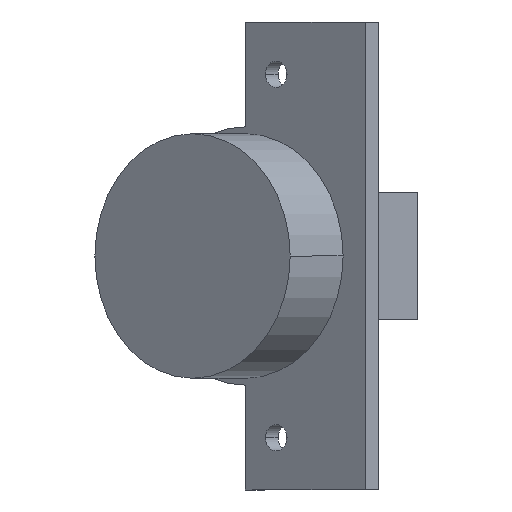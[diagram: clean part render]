
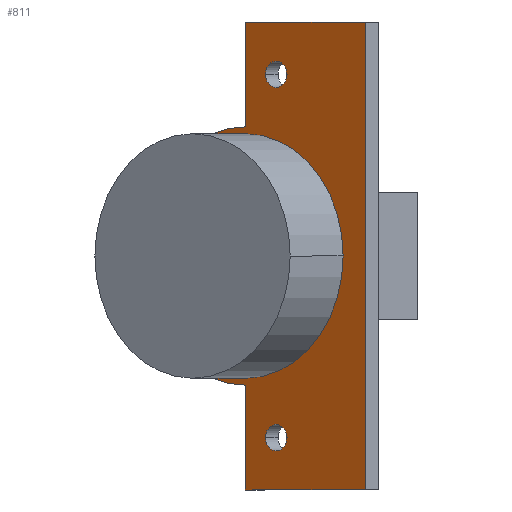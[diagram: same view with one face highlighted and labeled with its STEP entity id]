
A CAD part, front view. The second image highlights one B-rep face of the part: STEP entity #811.
In plain terms, the highlighted planar face has unit normal (-0.602, -0.799, 0).
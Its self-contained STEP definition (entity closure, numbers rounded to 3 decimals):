
#19 = VERTEX_POINT ( 'NONE', #133 ) ;
#20 = VERTEX_POINT ( 'NONE', #134 ) ;
#22 = VERTEX_POINT ( 'NONE', #136 ) ;
#25 = VERTEX_POINT ( 'NONE', #139 ) ;
#30 = VERTEX_POINT ( 'NONE', #86 ) ;
#31 = VERTEX_POINT ( 'NONE', #90 ) ;
#36 = VERTEX_POINT ( 'NONE', #93 ) ;
#38 = VERTEX_POINT ( 'NONE', #82 ) ;
#40 = VERTEX_POINT ( 'NONE', #84 ) ;
#46 = VERTEX_POINT ( 'NONE', #74 ) ;
#61 = VERTEX_POINT ( 'NONE', #1086 ) ;
#69 = VERTEX_POINT ( 'NONE', #1094 ) ;
#74 = CARTESIAN_POINT ( 'NONE',  ( 19., 0., 33.5 ) ) ;
#82 = CARTESIAN_POINT ( 'NONE',  ( 36.171, -12.939, 33.5 ) ) ;
#84 = CARTESIAN_POINT ( 'NONE',  ( 21.875, -2.167, 26. ) ) ;
#86 = CARTESIAN_POINT ( 'NONE',  ( 36.171, -12.939, -33.5 ) ) ;
#90 = CARTESIAN_POINT ( 'NONE',  ( 21.875, -2.167, -26. ) ) ;
#93 = CARTESIAN_POINT ( 'NONE',  ( 19., 0., -18.5 ) ) ;
#133 = CARTESIAN_POINT ( 'NONE',  ( 24.91, -4.453, -26. ) ) ;
#134 = CARTESIAN_POINT ( 'NONE',  ( 5.024, 10.532, 0. ) ) ;
#136 = CARTESIAN_POINT ( 'NONE',  ( 19., 0., 18.5 ) ) ;
#139 = CARTESIAN_POINT ( 'NONE',  ( 24.91, -4.453, 26. ) ) ;
#155 = EDGE_LOOP ( 'NONE', ( #340, #339 ) ) ;
#159 = EDGE_LOOP ( 'NONE', ( #338, #337 ) ) ;
#161 = EDGE_LOOP ( 'NONE', ( #342, #341 ) ) ;
#162 = EDGE_LOOP ( 'NONE', ( #348, #347, #346, #345, #344, #343 ) ) ;
#337 = ORIENTED_EDGE ( 'NONE', *, *, #881, .F. ) ;
#338 = ORIENTED_EDGE ( 'NONE', *, *, #860, .F. ) ;
#339 = ORIENTED_EDGE ( 'NONE', *, *, #867, .T. ) ;
#340 = ORIENTED_EDGE ( 'NONE', *, *, #892, .T. ) ;
#341 = ORIENTED_EDGE ( 'NONE', *, *, #863, .T. ) ;
#342 = ORIENTED_EDGE ( 'NONE', *, *, #890, .T. ) ;
#343 = ORIENTED_EDGE ( 'NONE', *, *, #861, .F. ) ;
#344 = ORIENTED_EDGE ( 'NONE', *, *, #865, .F. ) ;
#345 = ORIENTED_EDGE ( 'NONE', *, *, #862, .F. ) ;
#346 = ORIENTED_EDGE ( 'NONE', *, *, #869, .F. ) ;
#347 = ORIENTED_EDGE ( 'NONE', *, *, #864, .F. ) ;
#348 = ORIENTED_EDGE ( 'NONE', *, *, #891, .F. ) ;
#492 = FACE_OUTER_BOUND ( 'NONE', #162, .T. ) ;
#497 = FACE_BOUND ( 'NONE', #161, .T. ) ;
#499 = FACE_BOUND ( 'NONE', #155, .T. ) ;
#501 = FACE_BOUND ( 'NONE', #159, .T. ) ;
#517 = VECTOR ( 'NONE', #1324, 1000. ) ;
#554 = VECTOR ( 'NONE', #1319, 1000. ) ;
#558 = LINE ( 'NONE', #1317, #561 ) ;
#559 = LINE ( 'NONE', #1311, #554 ) ;
#560 = CIRCLE ( 'NONE', #999, 17.5 ) ;
#561 = VECTOR ( 'NONE', #1321, 1000. ) ;
#563 = LINE ( 'NONE', #1318, #517 ) ;
#564 = CIRCLE ( 'NONE', #856, 1.9 ) ;
#566 = CIRCLE ( 'NONE', #997, 18.5 ) ;
#568 = LINE ( 'NONE', #1334, #571 ) ;
#570 = CIRCLE ( 'NONE', #1048, 1.9 ) ;
#571 = VECTOR ( 'NONE', #1337, 1000. ) ;
#592 = CIRCLE ( 'NONE', #1051, 17.5 ) ;
#595 = LINE ( 'NONE', #1391, #596 ) ;
#596 = VECTOR ( 'NONE', #1392, 1000. ) ;
#604 = CIRCLE ( 'NONE', #1058, 1.9 ) ;
#608 = CIRCLE ( 'NONE', #1060, 1.9 ) ;
#811 = ADVANCED_FACE ( 'NONE', ( #492, #497, #499, #501 ), #1122, .F. ) ;
#856 = AXIS2_PLACEMENT_3D ( 'NONE', #1320, #1322, #1323 ) ;
#860 = EDGE_CURVE ( 'NONE', #20, #69, #560, .T. ) ;
#861 = EDGE_CURVE ( 'NONE', #61, #36, #559, .T. ) ;
#862 = EDGE_CURVE ( 'NONE', #22, #46, #558, .T. ) ;
#863 = EDGE_CURVE ( 'NONE', #25, #40, #564, .T. ) ;
#864 = EDGE_CURVE ( 'NONE', #38, #30, #563, .T. ) ;
#865 = EDGE_CURVE ( 'NONE', #36, #22, #566, .T. ) ;
#867 = EDGE_CURVE ( 'NONE', #19, #31, #570, .T. ) ;
#869 = EDGE_CURVE ( 'NONE', #46, #38, #568, .T. ) ;
#881 = EDGE_CURVE ( 'NONE', #69, #20, #592, .T. ) ;
#890 = EDGE_CURVE ( 'NONE', #40, #25, #604, .T. ) ;
#891 = EDGE_CURVE ( 'NONE', #30, #61, #595, .T. ) ;
#892 = EDGE_CURVE ( 'NONE', #31, #19, #608, .T. ) ;
#997 = AXIS2_PLACEMENT_3D ( 'NONE', #1325, #1326, #1327 ) ;
#999 = AXIS2_PLACEMENT_3D ( 'NONE', #1314, #1315, #1316 ) ;
#1004 = AXIS2_PLACEMENT_3D ( 'NONE', #1127, #1147, #1148 ) ;
#1048 = AXIS2_PLACEMENT_3D ( 'NONE', #1331, #1332, #1333 ) ;
#1051 = AXIS2_PLACEMENT_3D ( 'NONE', #1364, #1365, #1366 ) ;
#1058 = AXIS2_PLACEMENT_3D ( 'NONE', #1386, #1388, #1389 ) ;
#1060 = AXIS2_PLACEMENT_3D ( 'NONE', #1393, #1395, #1396 ) ;
#1086 = CARTESIAN_POINT ( 'NONE',  ( 19., 0., -33.5 ) ) ;
#1094 = CARTESIAN_POINT ( 'NONE',  ( 32.976, -10.532, 0. ) ) ;
#1122 = PLANE ( 'NONE',  #1004 ) ;
#1127 = CARTESIAN_POINT ( 'NONE',  ( 19., 0., 0. ) ) ;
#1147 = DIRECTION ( 'NONE',  ( 0.602, 0.799, 0. ) ) ;
#1148 = DIRECTION ( 'NONE',  ( -0.799, 0.602, 0. ) ) ;
#1311 = CARTESIAN_POINT ( 'NONE',  ( 19., 0., -33.5 ) ) ;
#1314 = CARTESIAN_POINT ( 'NONE',  ( 19., 0., 0. ) ) ;
#1315 = DIRECTION ( 'NONE',  ( -0.602, -0.799, 0. ) ) ;
#1316 = DIRECTION ( 'NONE',  ( -0.799, 0.602, 0. ) ) ;
#1317 = CARTESIAN_POINT ( 'NONE',  ( 19., 0., 18.5 ) ) ;
#1318 = CARTESIAN_POINT ( 'NONE',  ( 36.171, -12.939, 33.5 ) ) ;
#1319 = DIRECTION ( 'NONE',  ( 0., 0., 1. ) ) ;
#1320 = CARTESIAN_POINT ( 'NONE',  ( 23.392, -3.31, 26. ) ) ;
#1321 = DIRECTION ( 'NONE',  ( 0., 0., 1. ) ) ;
#1322 = DIRECTION ( 'NONE',  ( 0.602, 0.799, 0. ) ) ;
#1323 = DIRECTION ( 'NONE',  ( -0.799, 0.602, 0. ) ) ;
#1324 = DIRECTION ( 'NONE',  ( 0., 0., -1. ) ) ;
#1325 = CARTESIAN_POINT ( 'NONE',  ( 19., 0., 0. ) ) ;
#1326 = DIRECTION ( 'NONE',  ( 0.602, 0.799, 0. ) ) ;
#1327 = DIRECTION ( 'NONE',  ( -0.799, 0.602, 0. ) ) ;
#1331 = CARTESIAN_POINT ( 'NONE',  ( 23.392, -3.31, -26. ) ) ;
#1332 = DIRECTION ( 'NONE',  ( 0.602, 0.799, 0. ) ) ;
#1333 = DIRECTION ( 'NONE',  ( -0.799, 0.602, 0. ) ) ;
#1334 = CARTESIAN_POINT ( 'NONE',  ( 19., 0., 33.5 ) ) ;
#1337 = DIRECTION ( 'NONE',  ( 0.799, -0.602, 0. ) ) ;
#1364 = CARTESIAN_POINT ( 'NONE',  ( 19., 0., 0. ) ) ;
#1365 = DIRECTION ( 'NONE',  ( -0.602, -0.799, 0. ) ) ;
#1366 = DIRECTION ( 'NONE',  ( -0.799, 0.602, 0. ) ) ;
#1386 = CARTESIAN_POINT ( 'NONE',  ( 23.392, -3.31, 26. ) ) ;
#1388 = DIRECTION ( 'NONE',  ( 0.602, 0.799, 0. ) ) ;
#1389 = DIRECTION ( 'NONE',  ( -0.799, 0.602, 0. ) ) ;
#1391 = CARTESIAN_POINT ( 'NONE',  ( 36.171, -12.939, -33.5 ) ) ;
#1392 = DIRECTION ( 'NONE',  ( -0.799, 0.602, 0. ) ) ;
#1393 = CARTESIAN_POINT ( 'NONE',  ( 23.392, -3.31, -26. ) ) ;
#1395 = DIRECTION ( 'NONE',  ( 0.602, 0.799, 0. ) ) ;
#1396 = DIRECTION ( 'NONE',  ( -0.799, 0.602, 0. ) ) ;
